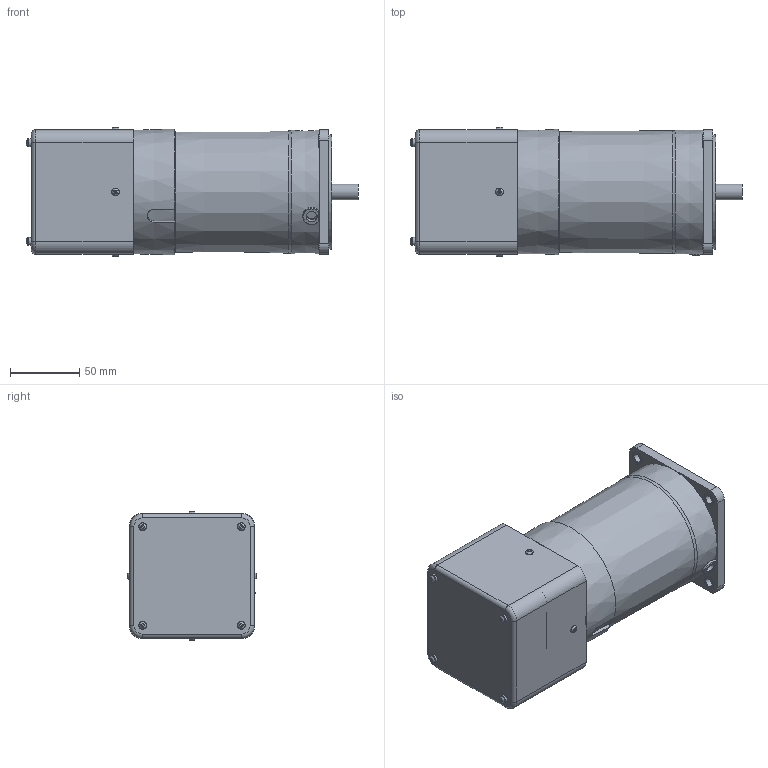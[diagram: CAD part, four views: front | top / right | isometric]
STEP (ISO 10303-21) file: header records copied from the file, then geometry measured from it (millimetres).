
FILE_DESCRIPTION((''),'2;1');
FILE_NAME('D:\김성묵\업무폴더\개발 파일\프로젝트 개발 AB등급\AC표준형 개발자료\90각 이하 표준형 개발\도면작성 자료\3D 도면\홈페이지용 3D 파일\90W MOTOR\ES TYPE\S9R90G-ES.stp','2015-03-31T10:37:01',('smkim'),(''),'Autodesk Inventor 2012','Autodesk Inventor 2012','');
FILE_SCHEMA(('AUTOMOTIVE_DESIGN { 1 0 10303 214 1 1 1 1 }'));
Length unit declared in the file: millimetre
Products named in the file (1): 부품18
Bounding box: 240.25 x 93.89 x 93.89 mm (x, y, z)
Volume: 1219321 mm3; surface area: 116819.6 mm2
Topology: 1 solids, 7 shells, 291 faces, 695 edges, 448 vertices
Faces by surface type: plane 177, cylinder 72, torus 26, cone 8, bspline 8
Full cylindrical faces by diameter (mm): 3 x8, 4.5 x4, 5.6 x12, 6.5 x4, 8 x1, 9.5 x4, 10 x1, 11.5 x1, 40 x1, 83 x1, 86 x1
Entity records: 8790 total; most frequent: CARTESIAN_POINT 2277, DIRECTION 1250, ORIENTED_EDGE 1216, EDGE_CURVE 608, AXIS2_PLACEMENT_3D 462, VERTEX_POINT 433, EDGE_LOOP 409, VECTOR 326
